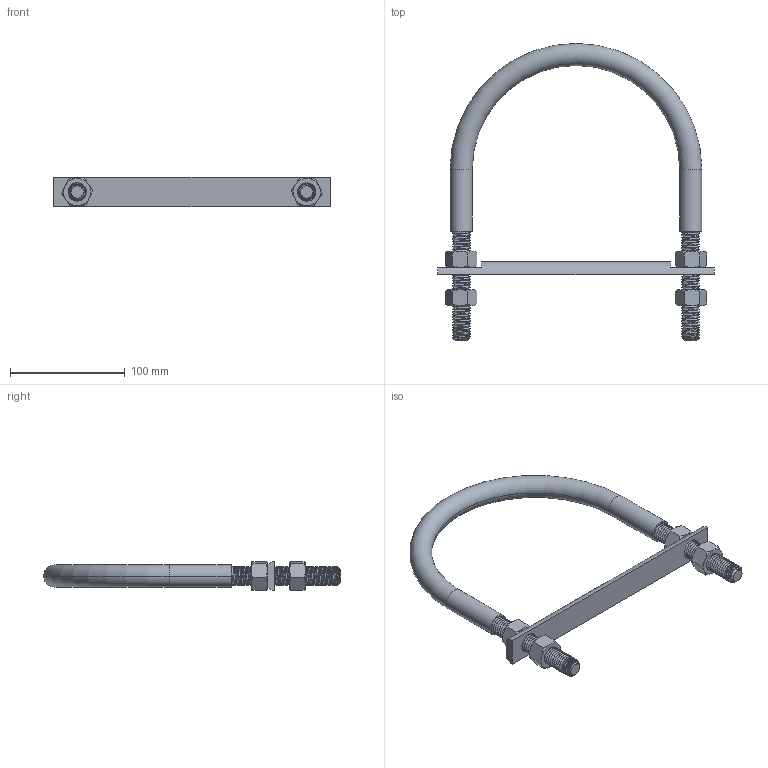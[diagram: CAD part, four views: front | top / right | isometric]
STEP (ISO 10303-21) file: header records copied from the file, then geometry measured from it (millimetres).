
FILE_DESCRIPTION (( 'STEP AP214' ), '1' );
FILE_NAME ('NUB1469.STEP', '2022-04-04T17:10:23', ( '' ), ( '' ), 'SwSTEP 2.0', 'SolidWorks 2021', '' );
FILE_SCHEMA (( 'AUTOMOTIVE_DESIGN' ));
Length unit declared in the file: inch
Products named in the file (4): NUB1469; FAS0047; ROD0643_IR16-6 XL [ROD0643]; UBT0996_UBT16-6-0.625-11 XL [NUB1469]
Assembly tree (6 placements, depth 2):
  NUB1469
    FAS0047  x4
    UBT0996_UBT16-6-0.625-11 XL [NUB1469]
    ROD0643_IR16-6 XL [ROD0643]
Bounding box: 241.3 x 258.86 x 25.27 mm (x, y, z)
Volume: 178371.1 mm3; surface area: 109543.2 mm2
Topology: 7 solids, 7 shells, 324 faces, 846 edges, 536 vertices
Faces by surface type: cylinder 193, cone 76, plane 45, torus 6, bspline 4
Entity records: 19065 total; most frequent: CARTESIAN_POINT 13689, ORIENTED_EDGE 1296, DIRECTION 840, EDGE_CURVE 648, VERTEX_POINT 422, AXIS2_PLACEMENT_3D 313, EDGE_LOOP 242, FACE_OUTER_BOUND 234
